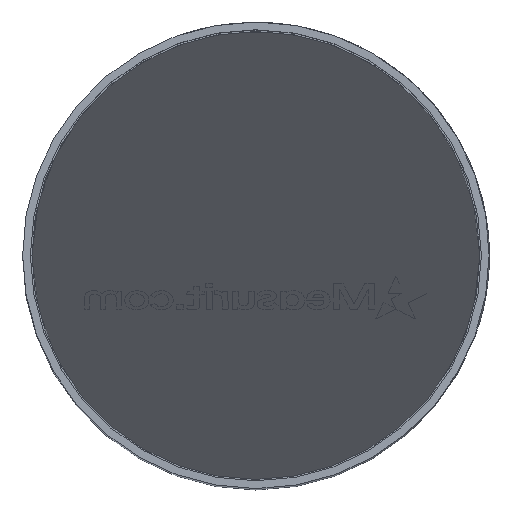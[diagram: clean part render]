
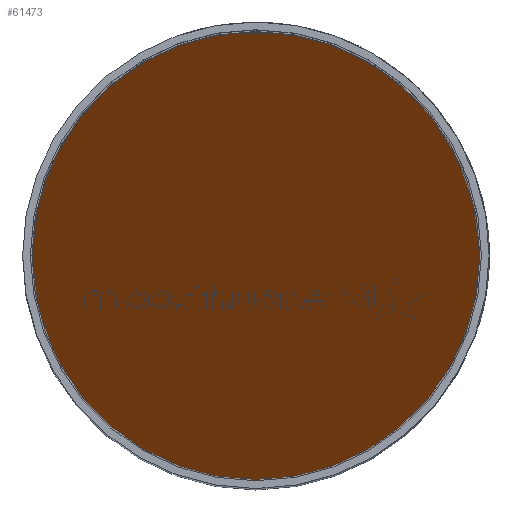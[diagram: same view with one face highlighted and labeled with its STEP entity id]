
A CAD part, top view. The second image highlights one B-rep face of the part: STEP entity #61473.
In plain terms, the highlighted planar face has unit normal (0, -0.707, 0.707).
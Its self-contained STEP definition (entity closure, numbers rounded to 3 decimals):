
#2750 = CARTESIAN_POINT ( 'NONE',  ( 432., 0., 812.828 ) ) ;
#8248 =( BOUNDED_CURVE ( )  B_SPLINE_CURVE ( 3, ( #74404, #58869, #23055, #2750 ),
 .UNSPECIFIED., .F., .T. ) 
 B_SPLINE_CURVE_WITH_KNOTS ( ( 4, 4 ),
 ( 4.712, 7.854 ),
 .UNSPECIFIED. ) 
 CURVE ( )  GEOMETRIC_REPRESENTATION_ITEM ( )  RATIONAL_B_SPLINE_CURVE ( ( 1., 0.333, 0.333, 1. ) ) 
 REPRESENTATION_ITEM ( '' )  );
#8349 = CARTESIAN_POINT ( 'NONE',  ( 432., 0., 812.828 ) ) ;
#14514 = EDGE_LOOP ( 'NONE', ( #85388, #42447 ) ) ;
#20316 = CARTESIAN_POINT ( 'NONE',  ( 432., 864., 1676.828 ) ) ;
#22625 = VERTEX_POINT ( 'NONE', #8349 ) ;
#23055 = CARTESIAN_POINT ( 'NONE',  ( 432., -864., -51.172 ) ) ;
#26716 = DIRECTION ( 'NONE',  ( 0., 0.707, 0.707 ) ) ;
#31712 = AXIS2_PLACEMENT_3D ( 'NONE', #48416, #71478, #26716 ) ;
#35300 = CARTESIAN_POINT ( 'NONE',  ( -432., 0., 812.828 ) ) ;
#42447 = ORIENTED_EDGE ( 'NONE', *, *, #51271, .T. ) ;
#43773 = VERTEX_POINT ( 'NONE', #35300 ) ;
#48416 = CARTESIAN_POINT ( 'NONE',  ( 1341.562, -406.414, 406.414 ) ) ;
#49059 = CARTESIAN_POINT ( 'NONE',  ( -432., 864., 1676.828 ) ) ;
#51271 = EDGE_CURVE ( 'NONE', #22625, #43773, #53455, .T. ) ;
#53455 =( BOUNDED_CURVE ( )  B_SPLINE_CURVE ( 3, ( #84839, #20316, #49059, #77793 ),
 .UNSPECIFIED., .F., .F. ) 
 B_SPLINE_CURVE_WITH_KNOTS ( ( 4, 4 ),
 ( 1.571, 4.712 ),
 .UNSPECIFIED. ) 
 CURVE ( )  GEOMETRIC_REPRESENTATION_ITEM ( )  RATIONAL_B_SPLINE_CURVE ( ( 1., 0.333, 0.333, 1. ) ) 
 REPRESENTATION_ITEM ( '' )  );
#58869 = CARTESIAN_POINT ( 'NONE',  ( -432., -864., -51.172 ) ) ;
#61473 = ADVANCED_FACE ( 'NONE', ( #77139 ), #91240, .F. ) ;
#62302 = EDGE_CURVE ( 'NONE', #43773, #22625, #8248, .T. ) ;
#71478 = DIRECTION ( 'NONE',  ( 0., 0.707, -0.707 ) ) ;
#74404 = CARTESIAN_POINT ( 'NONE',  ( -432., 0., 812.828 ) ) ;
#77139 = FACE_OUTER_BOUND ( 'NONE', #14514, .T. ) ;
#77793 = CARTESIAN_POINT ( 'NONE',  ( -432., 0., 812.828 ) ) ;
#84839 = CARTESIAN_POINT ( 'NONE',  ( 432., 0., 812.828 ) ) ;
#85388 = ORIENTED_EDGE ( 'NONE', *, *, #62302, .T. ) ;
#91240 = PLANE ( 'NONE',  #31712 ) ;
